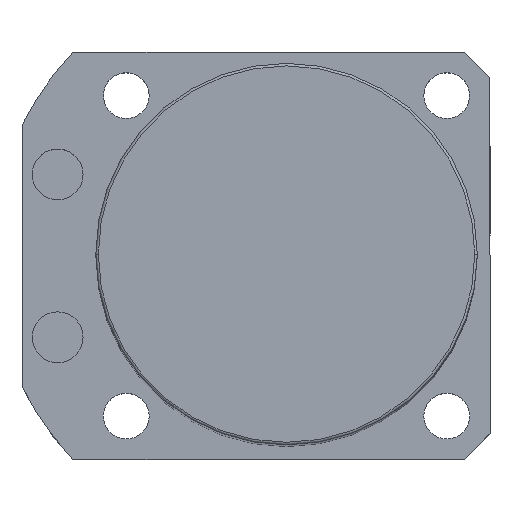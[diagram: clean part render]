
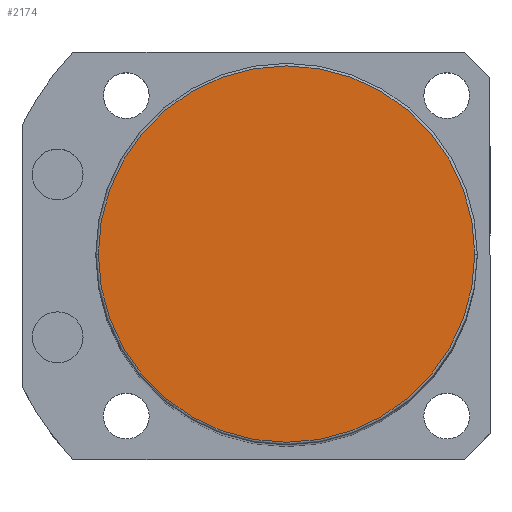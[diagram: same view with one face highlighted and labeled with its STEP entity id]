
A CAD part, top view. The second image highlights one B-rep face of the part: STEP entity #2174.
In plain terms, the highlighted planar face has unit normal (0, 0, 1).
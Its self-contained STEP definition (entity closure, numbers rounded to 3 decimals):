
#122 = DIRECTION ( 'NONE',  ( 0., 0., 1. ) ) ;
#182 = EDGE_CURVE ( 'NONE', #804, #417, #2313, .T. ) ;
#319 = DIRECTION ( 'NONE',  ( 1., 0., 0. ) ) ;
#337 = DIRECTION ( 'NONE',  ( 1., 0., 0. ) ) ;
#417 = VERTEX_POINT ( 'NONE', #2183 ) ;
#535 = EDGE_LOOP ( 'NONE', ( #1573, #1643 ) ) ;
#759 = AXIS2_PLACEMENT_3D ( 'NONE', #797, #2551, #337 ) ;
#763 = CARTESIAN_POINT ( 'NONE',  ( 0., 0., 215.5 ) ) ;
#788 = AXIS2_PLACEMENT_3D ( 'NONE', #1651, #1897, #2778 ) ;
#797 = CARTESIAN_POINT ( 'NONE',  ( 0., 0., 215.5 ) ) ;
#804 = VERTEX_POINT ( 'NONE', #2072 ) ;
#1045 = EDGE_CURVE ( 'NONE', #417, #804, #2048, .T. ) ;
#1573 = ORIENTED_EDGE ( 'NONE', *, *, #1045, .T. ) ;
#1643 = ORIENTED_EDGE ( 'NONE', *, *, #182, .T. ) ;
#1651 = CARTESIAN_POINT ( 'NONE',  ( 0., 0., 215.5 ) ) ;
#1897 = DIRECTION ( 'NONE',  ( 0., 0., 1. ) ) ;
#2020 = AXIS2_PLACEMENT_3D ( 'NONE', #763, #122, #319 ) ;
#2048 = CIRCLE ( 'NONE', #759, 37. ) ;
#2072 = CARTESIAN_POINT ( 'NONE',  ( -37., 0., 215.5 ) ) ;
#2174 = ADVANCED_FACE ( 'NONE', ( #2316 ), #2772, .T. ) ;
#2183 = CARTESIAN_POINT ( 'NONE',  ( 37., 0., 215.5 ) ) ;
#2313 = CIRCLE ( 'NONE', #2020, 37. ) ;
#2316 = FACE_OUTER_BOUND ( 'NONE', #535, .T. ) ;
#2551 = DIRECTION ( 'NONE',  ( 0., 0., 1. ) ) ;
#2772 = PLANE ( 'NONE',  #788 ) ;
#2778 = DIRECTION ( 'NONE',  ( 1., 0., 0. ) ) ;
